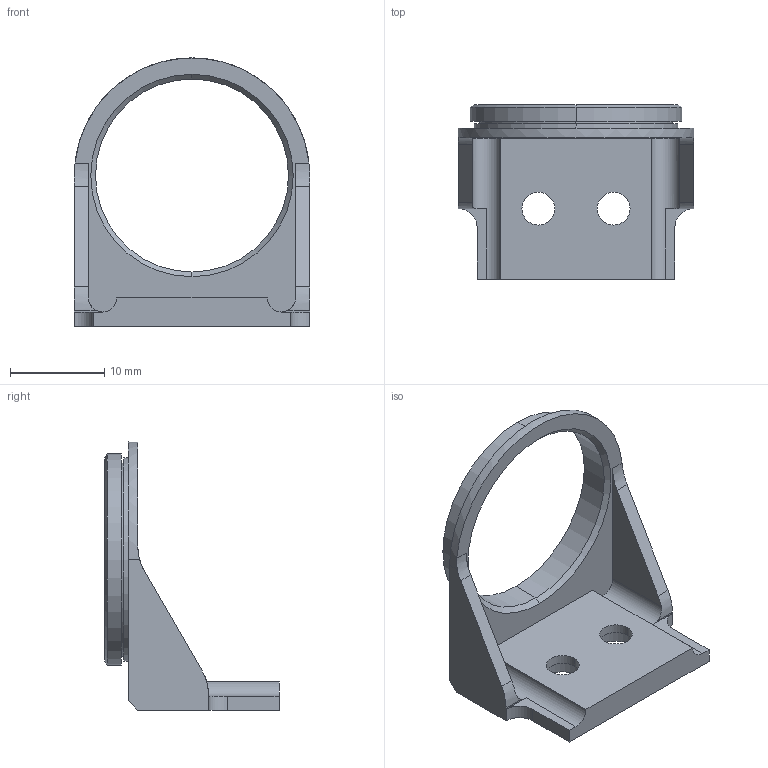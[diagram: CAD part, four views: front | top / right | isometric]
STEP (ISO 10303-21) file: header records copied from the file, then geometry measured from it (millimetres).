
FILE_DESCRIPTION (( 'STEP AP214' ), '1' );
FILE_NAME ('BK?VCOBS1513-TCH65_Drawing_T1301A-A00100.SLDPRT.STEP', '2025-04-25T07:24:57', ( '' ), ( '' ), 'SwSTEP 2.0', 'SolidWorks 2018', '' );
FILE_SCHEMA (( 'AUTOMOTIVE_DESIGN' ));
Length unit declared in the file: millimetre
Products named in the file (1): BK?VCOBS1513-TCH65_Drawing_T1301A-A00100.SLDPRT
Bounding box: 25 x 18.5 x 28.5 mm (x, y, z)
Surface area: 2126.7 mm2 (no closed solid volume)
Topology: 0 solids, 1 shells, 48 faces, 123 edges, 80 vertices
Faces by surface type: cylinder 23, plane 21, cone 4
Entity records: 2046 total; most frequent: CARTESIAN_POINT 276, DIRECTION 269, ORIENTED_EDGE 242, EDGE_CURVE 123, AXIS2_PLACEMENT_3D 101, VERTEX_POINT 80, LINE 67, VECTOR 67
